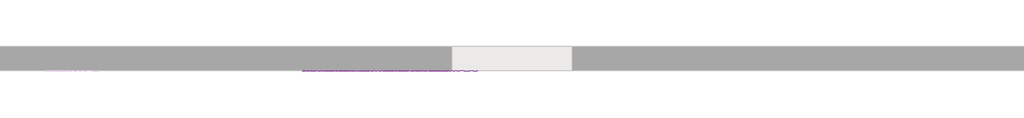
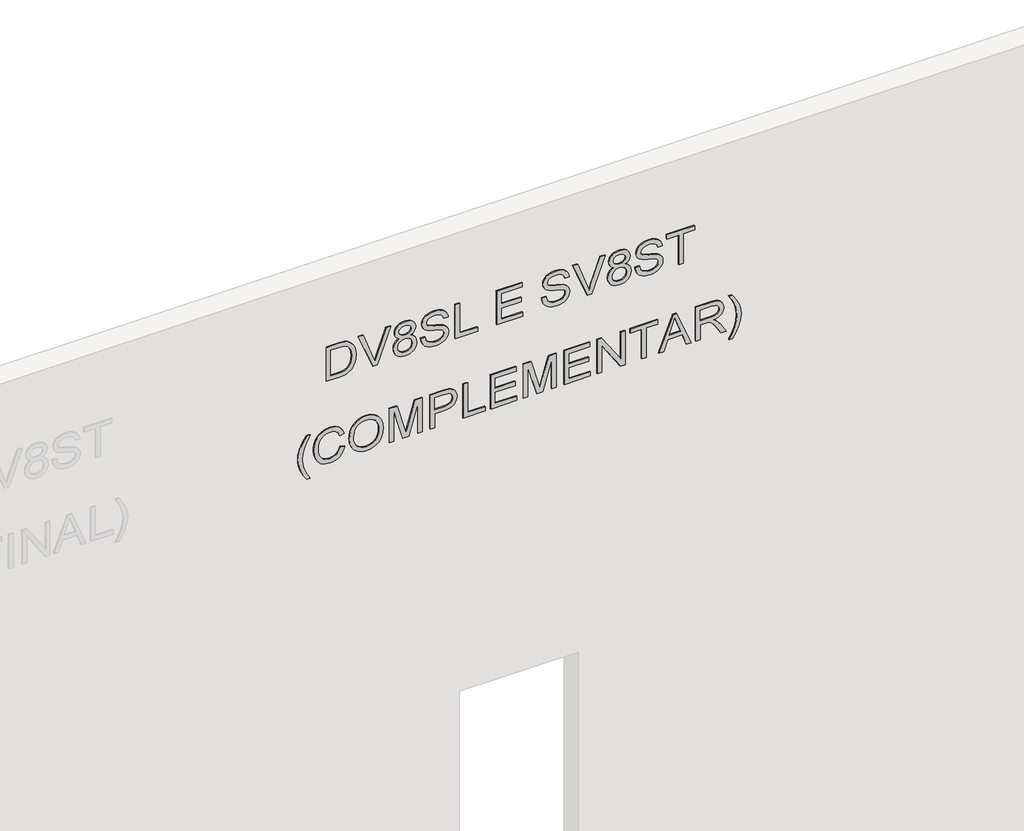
# One storey, part 4 of 4: 1 proxy.
"""IFC4 building model written with IfcOpenShell, lengths in millimetres."""

from ifc_helpers import new_model, si_unit, frame, origin, place, context, project, spatial, polyline, outline, extrude, element, save

model = new_model("IFC4")

# Units and contexts
model_context = context("Model", 3, world=origin())
ifc_project = project(units=[si_unit("LENGTHUNIT", "METRE", prefix="MILLI")], contexts=[model_context])

# Site, building, storey
site = spatial("IfcSite", under=ifc_project)
building = spatial("IfcBuilding", under=site)
storey = spatial("IfcBuildingStorey", under=building, Name="01 - Marelli - Planta Baixa - Painel Simples", Elevation=0.0)

# Proxy
placement = place(None, origin())
element("IfcBuildingElementProxy", 1, Name="300mm Arial", ObjectType="300mm Arial", at=placement, inside=storey, context=model_context, shape_type="SweptSolid", body=[
    extrude(outline(polyline([(6065.9244535, 22245.7423947), (6065.9244535, 22354.7090417), (6071.0748015, 22403.1591004), (6077.4299629, 22422.7028314), (6086.1947515, 22439.1747477), (6098.0129606, 22453.5221456), (6113.5283837, 22466.692321), (6133.1824793, 22478.133451), (6157.4167057, 22487.2937127), (6185.8815751, 22493.3085833), (6218.2275995, 22495.3135402), (6256.303386, 22492.3520901), (6289.8910122, 22483.46774), (6318.438655, 22468.6237015), (6341.3944915, 22447.7831864), (6354.5830611, 22427.5128885), (6362.9523764, 22403.4901942), (6367.293384, 22349.7058465), (6367.293384, 22245.7423947), (6065.9244535, 22245.7423947)]), holes=[polyline([(6103.5955698, 22283.413511), (6329.6222677, 22283.413511), (6329.6222677, 22349.0436589), (6328.1139515, 22380.7918751), (6323.589003, 22402.4601246), (6311.0074387, 22423.7512951), (6290.1853178, 22441.5659807), (6259.8718414, 22453.6233131), (6218.8162107, 22457.6424239), (6187.8313497, 22455.5914818), (6161.8312897, 22449.4386554), (6140.7240602, 22439.6070091), (6124.4176908, 22426.5196071), (6115.606917, 22414.3427131), (6109.0402234, 22398.5605755), (6104.9567332, 22377.6464841), (6103.5955698, 22350.0737285), (6103.5955698, 22283.413511)])]), frame((0.0, 8778.3159498, 0.0), z_axis=(0.0, 1.0, 0.0), x_axis=(0.0, 0.0, 1.0)), (0.0, 0.0, 1.0), 10.0),
    extrude(outline(polyline([(6065.9244535, 22636.138768), (6065.9244535, 22675.0606831), (6367.293384, 22789.9134419), (6367.293384, 22749.5935753), (6150.1694304, 22669.1009947), (6101.2411251, 22653.0613397), (6150.1694304, 22636.8009556), (6367.293384, 22556.5291042), (6367.293384, 22516.2092375), (6065.9244535, 22636.138768)])), frame((0.0, 8778.3159498, 0.0), z_axis=(0.0, 1.0, 0.0), x_axis=(0.0, 0.0, 1.0)), (0.0, 0.0, 1.0), 10.0),
    extrude(outline(polyline([(6231.9128098, 22865.697133), (6221.4281729, 22842.3734145), (6204.5423893, 22825.0829607), (6182.0280112, 22814.3775946), (6154.6575908, 22810.8091393), (6135.5070337, 22812.5105935), (6118.007347, 22817.6149562), (6102.1585308, 22826.1222273), (6087.960585, 22838.0324069), (6076.2596383, 22852.7200956), (6067.9018193, 22869.5598939), (6062.8871278, 22888.5518019), (6061.215564, 22909.6958196), (6062.88023, 22930.8398373), (6067.8742281, 22949.8317453), (6076.1975583, 22966.6715436), (6087.8502204, 22981.3592322), (6101.9492979, 22993.2694118), (6117.6118739, 23001.776683), (6134.8379483, 23006.8810457), (6153.6275212, 23008.5824999), (6179.9770691, 23005.1520003), (6202.3718855, 22994.8605015), (6219.965842, 22977.9839149), (6231.9128098, 22954.7981522), (6241.8180325, 22974.3234891), (6255.1997401, 22988.1650491), (6271.6348682, 22996.4148029), (6290.7003526, 22999.1647208), (6306.0962141, 22997.6196164), (6320.278065, 22992.9843033), (6333.2459053, 22985.2587814), (6344.9997351, 22974.4430507), (6354.7532065, 22961.0935328), (6361.7199718, 22945.7666492), (6367.293384, 22909.1807848), (6361.8487305, 22872.8156496), (6355.0429135, 22857.6543128), (6345.5147699, 22844.50713), (6333.9862678, 22833.8845374), (6321.1793759, 22826.2969713), (6307.094094, 22821.7444316), (6291.7304222, 22820.2269184), (6272.0303413, 22823.0136245), (6255.3101047, 22831.3737428), (6241.8456236, 22845.5280026), (6231.9128098, 22865.697133)]), holes=[polyline([(6290.6267762, 22857.8980347), (6305.525997, 22861.2917461), (6318.1443494, 22871.4728803), (6326.7527881, 22887.8160379), (6329.6222677, 22909.6958196), (6326.6884088, 22931.4376455), (6317.886832, 22947.8083943), (6304.781036, 22958.0723019), (6288.934519, 22961.4936045), (6273.6674162, 22958.1826665), (6260.9754874, 22948.2498527), (6252.422231, 22932.0998331), (6249.5711455, 22910.137278), (6252.4406251, 22887.650491), (6261.0490638, 22871.2521511), (6274.182451, 22861.2365638), (6290.6267762, 22857.8980347)]), polyline([(6155.981966, 22848.4802556), (6177.9629152, 22852.4625782), (6195.9339506, 22864.409546), (6207.9085096, 22883.4566363), (6211.9000292, 22908.7393264), (6207.8533273, 22934.6750071), (6195.7132214, 22954.3566938), (6177.3926981, 22966.7727111), (6154.8047436, 22970.9113836), (6132.5938681, 22966.9014698), (6114.6688179, 22954.8717286), (6102.8322147, 22935.6315002), (6098.8866803, 22909.9901252), (6100.7628785, 22893.2514944), (6106.391473, 22877.0278984), (6115.4505671, 22863.4806439), (6127.6182641, 22854.7710377), (6155.981966, 22848.4802556)])]), frame((0.0, 8778.3159498, 0.0), z_axis=(0.0, 1.0, 0.0), x_axis=(0.0, 0.0, 1.0)), (0.0, 0.0, 1.0), 10.0),
    extrude(outline(polyline([(6169.5200234, 23041.5447266), (6139.0961824, 23046.0144929), (6111.9832793, 23057.8051108), (6089.7264186, 23076.1716194), (6073.8707046, 23100.3690577), (6064.3793492, 23130.7469134), (6061.215564, 23167.6546746), (6064.1494229, 23197.7198307), (6072.9509996, 23224.6395956), (6087.0408801, 23247.0252151), (6105.83965, 23263.4879343), (6127.6826435, 23273.6138863), (6150.9051944, 23276.9892036), (6173.6219076, 23274.0553447), (6193.5059295, 23265.2537679), (6210.3733189, 23250.2717737), (6224.0401351, 23228.7966622), (6232.8509088, 23203.6703219), (6242.9492696, 23162.1364447), (6253.5810593, 23121.8901544), (6263.9921197, 23100.6265751), (6275.6355849, 23091.6318603), (6290.1117414, 23088.633622), (6307.0894955, 23092.864265), (6321.381711, 23105.5561938), (6331.0937957, 23127.5003548), (6334.3311572, 23159.4876943), (6331.0570075, 23190.7392698), (6321.2345582, 23213.272042), (6305.0109622, 23227.6930162), (6282.5333723, 23234.6091977), (6282.5333723, 23272.280314), (6307.4941657, 23268.031277), (6329.6958441, 23257.344305), (6347.9979733, 23240.4585214), (6361.2601193, 23217.6130495), (6369.316735, 23189.8011707), (6372.0022735, 23158.0161663), (6369.4362966, 23128.6775772), (6361.7383659, 23102.1716795), (6349.0832252, 23080.0895627), (6331.6456187, 23064.0223166), (6311.0718181, 23054.2274584), (6289.0080954, 23050.9625057), (6269.2712264, 23053.602059), (6251.5577083, 23061.520719), (6236.198635, 23074.8104561), (6223.5251003, 23093.5632408), (6214.4660061, 23116.6018507), (6204.9470595, 23152.608301), (6190.5628735, 23207.4595065), (6182.7545782, 23223.5359497), (6173.4563607, 23233.0640933), (6162.5578566, 23237.7545888), (6149.9487012, 23239.3180873), (6137.0084521, 23237.2303569), (6124.6752082, 23230.967166), (6113.9330539, 23220.4365439), (6105.7660736, 23205.5465201), (6100.6065286, 23187.1708144), (6098.8866803, 23166.1831466), (6101.1583516, 23142.3443933), (6107.9733656, 23121.0072376), (6118.4763965, 23103.5512369), (6131.8121189, 23091.3559488), (6148.615129, 23083.5384564), (6169.5200234, 23079.215843), (6169.5200234, 23041.5447266)])), frame((0.0, 8778.3159498, 0.0), z_axis=(0.0, 1.0, 0.0), x_axis=(0.0, 0.0, 1.0)), (0.0, 0.0, 1.0), 10.0),
    extrude(outline(polyline([(6065.9244535, 23333.495878), (6065.9244535, 23521.8514596), (6103.5955698, 23521.8514596), (6103.5955698, 23371.1669943), (6367.293384, 23371.1669943), (6367.293384, 23333.495878), (6065.9244535, 23333.495878)])), frame((0.0, 8778.3159498, 0.0), z_axis=(0.0, 1.0, 0.0), x_axis=(0.0, 0.0, 1.0)), (0.0, 0.0, 1.0), 10.0),
    extrude(outline(polyline([(6065.9244535, 23681.9537039), (6065.9244535, 23903.2715122), (6103.5955698, 23903.2715122), (6103.5955698, 23719.6248202), (6202.4822501, 23719.6248202), (6202.4822501, 23889.1448435), (6240.1533665, 23889.1448435), (6240.1533665, 23719.6248202), (6329.6222677, 23719.6248202), (6329.6222677, 23898.5626226), (6367.293384, 23898.5626226), (6367.293384, 23681.9537039), (6065.9244535, 23681.9537039)])), frame((0.0, 8778.3159498, 0.0), z_axis=(0.0, 1.0, 0.0), x_axis=(0.0, 0.0, 1.0)), (0.0, 0.0, 1.0), 10.0),
    extrude(outline(polyline([(6169.5200234, 24063.3737565), (6139.0961824, 24067.8435227), (6111.9832793, 24079.6341406), (6089.7264186, 24098.0006492), (6073.8707046, 24122.1980875), (6064.3793492, 24152.5759432), (6061.215564, 24189.4837044), (6064.1494229, 24219.5488605), (6072.9509996, 24246.4686255), (6087.0408801, 24268.8542449), (6105.83965, 24285.3169641), (6127.6826435, 24295.4429161), (6150.9051944, 24298.8182334), (6173.6219076, 24295.8843745), (6193.5059295, 24287.0827977), (6210.3733189, 24272.1008035), (6224.0401351, 24250.625692), (6232.8509088, 24225.4993517), (6242.9492696, 24183.9654745), (6253.5810593, 24143.7191842), (6263.9921197, 24122.4556049), (6275.6355849, 24113.4608901), (6290.1117414, 24110.4626518), (6307.0894955, 24114.6932948), (6321.381711, 24127.3852236), (6331.0937957, 24149.3293846), (6334.3311572, 24181.3167241), (6331.0570075, 24212.5682996), (6321.2345582, 24235.1010718), (6305.0109622, 24249.522046), (6282.5333723, 24256.4382275), (6282.5333723, 24294.1093438), (6307.4941657, 24289.8603068), (6329.6958441, 24279.1733348), (6347.9979733, 24262.2875512), (6361.2601193, 24239.4420793), (6369.316735, 24211.6302005), (6372.0022735, 24179.8451961), (6369.4362966, 24150.506607), (6361.7383659, 24124.0007093), (6349.0832252, 24101.9185925), (6331.6456187, 24085.8513464), (6311.0718181, 24076.0564882), (6289.0080954, 24072.7915355), (6269.2712264, 24075.4310888), (6251.5577083, 24083.3497488), (6236.198635, 24096.6394859), (6223.5251003, 24115.3922706), (6214.4660061, 24138.4308805), (6204.9470595, 24174.4373308), (6190.5628735, 24229.2885363), (6182.7545782, 24245.3649795), (6173.4563607, 24254.8931231), (6162.5578566, 24259.5836186), (6149.9487012, 24261.1471171), (6137.0084521, 24259.0593867), (6124.6752082, 24252.7961958), (6113.9330539, 24242.2655737), (6105.7660736, 24227.3755499), (6100.6065286, 24208.9998442), (6098.8866803, 24188.0121764), (6101.1583516, 24164.1734231), (6107.9733656, 24142.8362674), (6118.4763965, 24125.3802667), (6131.8121189, 24113.1849786), (6148.615129, 24105.3674862), (6169.5200234, 24101.0448728), (6169.5200234, 24063.3737565)])), frame((0.0, 8778.3159498, 0.0), z_axis=(0.0, 1.0, 0.0), x_axis=(0.0, 0.0, 1.0)), (0.0, 0.0, 1.0), 10.0),
    extrude(outline(polyline([(6065.9244535, 24444.3523507), (6065.9244535, 24483.2742657), (6367.293384, 24598.1270246), (6367.293384, 24557.807158), (6150.1694304, 24477.3145774), (6101.2411251, 24461.2749224), (6150.1694304, 24445.0145382), (6367.293384, 24364.7426869), (6367.293384, 24324.4228202), (6065.9244535, 24444.3523507)])), frame((0.0, 8778.3159498, 0.0), z_axis=(0.0, 1.0, 0.0), x_axis=(0.0, 0.0, 1.0)), (0.0, 0.0, 1.0), 10.0),
    extrude(outline(polyline([(6231.9128098, 24673.9107156), (6221.4281729, 24650.5869972), (6204.5423893, 24633.2965434), (6182.0280112, 24622.5911773), (6154.6575908, 24619.022722), (6135.5070337, 24620.7241762), (6118.007347, 24625.8285389), (6102.1585308, 24634.33581), (6087.960585, 24646.2459896), (6076.2596383, 24660.9336783), (6067.9018193, 24677.7734766), (6062.8871278, 24696.7653846), (6061.215564, 24717.9094023), (6062.88023, 24739.0534199), (6067.8742281, 24758.0453279), (6076.1975583, 24774.8851263), (6087.8502204, 24789.5728149), (6101.9492979, 24801.4829945), (6117.6118739, 24809.9902657), (6134.8379483, 24815.0946283), (6153.6275212, 24816.7960826), (6179.9770691, 24813.365583), (6202.3718855, 24803.0740842), (6219.965842, 24786.1974976), (6231.9128098, 24763.0117349), (6241.8180325, 24782.5370718), (6255.1997401, 24796.3786318), (6271.6348682, 24804.6283856), (6290.7003526, 24807.3783035), (6306.0962141, 24805.8331991), (6320.278065, 24801.197886), (6333.2459053, 24793.4723641), (6344.9997351, 24782.6566334), (6354.7532065, 24769.3071155), (6361.7199718, 24753.9802319), (6367.293384, 24717.3943675), (6361.8487305, 24681.0292323), (6355.0429135, 24665.8678955), (6345.5147699, 24652.7207127), (6333.9862678, 24642.0981201), (6321.1793759, 24634.510554), (6307.094094, 24629.9580143), (6291.7304222, 24628.440501), (6272.0303413, 24631.2272072), (6255.3101047, 24639.5873255), (6241.8456236, 24653.7415853), (6231.9128098, 24673.9107156)]), holes=[polyline([(6155.981966, 24656.6938383), (6177.9629152, 24660.6761609), (6195.9339506, 24672.6231287), (6207.9085096, 24691.670219), (6211.9000292, 24716.9529091), (6207.8533273, 24742.8885897), (6195.7132214, 24762.5702765), (6177.3926981, 24774.9862938), (6154.8047436, 24779.1249663), (6132.5938681, 24775.1150525), (6114.6688179, 24763.0853113), (6102.8322147, 24743.8450829), (6098.8866803, 24718.2037079), (6100.7628785, 24701.4650771), (6106.391473, 24685.2414811), (6115.4505671, 24671.6942266), (6127.6182641, 24662.9846204), (6155.981966, 24656.6938383)]), polyline([(6290.6267762, 24666.1116174), (6305.525997, 24669.5053288), (6318.1443494, 24679.686463), (6326.7527881, 24696.0296206), (6329.6222677, 24717.9094023), (6326.6884088, 24739.6512282), (6317.886832, 24756.021977), (6304.781036, 24766.2858846), (6288.934519, 24769.7071872), (6273.6674162, 24766.3962492), (6260.9754874, 24756.4634354), (6252.422231, 24740.3134158), (6249.5711455, 24718.3508607), (6252.4406251, 24695.8640737), (6261.0490638, 24679.4657338), (6274.182451, 24669.4501465), (6290.6267762, 24666.1116174)])]), frame((0.0, 8778.3159498, 0.0), z_axis=(0.0, 1.0, 0.0), x_axis=(0.0, 0.0, 1.0)), (0.0, 0.0, 1.0), 10.0),
    extrude(outline(polyline([(6169.5200234, 24849.7583093), (6139.0961824, 24854.2280756), (6111.9832793, 24866.0186935), (6089.7264186, 24884.3852021), (6073.8707046, 24908.5826404), (6064.3793492, 24938.9604961), (6061.215564, 24975.8682573), (6064.1494229, 25005.9334133), (6072.9509996, 25032.8531783), (6087.0408801, 25055.2387977), (6105.83965, 25071.701517), (6127.6826435, 25081.8274689), (6150.9051944, 25085.2027863), (6173.6219076, 25082.2689273), (6193.5059295, 25073.4673506), (6210.3733189, 25058.4853564), (6224.0401351, 25037.0102449), (6232.8509088, 25011.8839046), (6242.9492696, 24970.3500274), (6253.5810593, 24930.1037371), (6263.9921197, 24908.8401578), (6275.6355849, 24899.845443), (6290.1117414, 24896.8472047), (6307.0894955, 24901.0778477), (6321.381711, 24913.7697765), (6331.0937957, 24935.7139375), (6334.3311572, 24967.701277), (6331.0570075, 24998.9528525), (6321.2345582, 25021.4856247), (6305.0109622, 25035.9065989), (6282.5333723, 25042.8227804), (6282.5333723, 25080.4938967), (6307.4941657, 25076.2448597), (6329.6958441, 25065.5578877), (6347.9979733, 25048.6721041), (6361.2601193, 25025.8266322), (6369.316735, 24998.0147534), (6372.0022735, 24966.229749), (6369.4362966, 24936.8911599), (6361.7383659, 24910.3852621), (6349.0832252, 24888.3031454), (6331.6456187, 24872.2358992), (6311.0718181, 24862.4410411), (6289.0080954, 24859.1760884), (6269.2712264, 24861.8156417), (6251.5577083, 24869.7343017), (6236.198635, 24883.0240388), (6223.5251003, 24901.7768235), (6214.4660061, 24924.8154334), (6204.9470595, 24960.8218837), (6190.5628735, 25015.6730892), (6182.7545782, 25031.7495324), (6173.4563607, 25041.277676), (6162.5578566, 25045.9681715), (6149.9487012, 25047.5316699), (6137.0084521, 25045.4439396), (6124.6752082, 25039.1807487), (6113.9330539, 25028.6501265), (6105.7660736, 25013.7601028), (6100.6065286, 24995.3843971), (6098.8866803, 24974.3967293), (6101.1583516, 24950.557976), (6107.9733656, 24929.2208203), (6118.4763965, 24911.7648196), (6131.8121189, 24899.5695315), (6148.615129, 24891.7520391), (6169.5200234, 24887.4294256), (6169.5200234, 24849.7583093)])), frame((0.0, 8778.3159498, 0.0), z_axis=(0.0, 1.0, 0.0), x_axis=(0.0, 0.0, 1.0)), (0.0, 0.0, 1.0), 10.0),
    extrude(outline(polyline([(6065.9244535, 25217.0516933), (6065.9244535, 25254.7228096), (6329.6222677, 25254.7228096), (6329.6222677, 25353.6094899), (6367.293384, 25353.6094899), (6367.293384, 25118.165013), (6329.6222677, 25118.165013), (6329.6222677, 25217.0516933), (6065.9244535, 25217.0516933)])), frame((0.0, 8778.3159498, 0.0), z_axis=(0.0, 1.0, 0.0), x_axis=(0.0, 0.0, 1.0)), (0.0, 0.0, 1.0), 10.0),
    extrude(outline(polyline([(5249.3155348, 22080.9312608), (5249.3155348, 22109.1845981), (5297.5540614, 22080.3426497), (5345.8109821, 22059.7412579), (5394.0862969, 22047.3804229), (5442.3800058, 22043.2601445), (5480.2534572, 22045.6329834), (5517.9429677, 22052.7515), (5575.7740173, 22073.9415029), (5635.4444769, 22109.1845981), (5635.4444769, 22080.9312608), (5584.934279, 22046.2399887), (5534.2033518, 22021.9229888), (5489.4137189, 22009.6725184), (5442.600735, 22005.5890282), (5389.2210575, 22011.0520759), (5337.68079, 22027.4412187), (5290.2791949, 22051.7398245), (5249.3155348, 22080.9312608)])), frame((0.0, 8778.3159498, 0.0), z_axis=(0.0, 1.0, 0.0), x_axis=(0.0, 0.0, 1.0)), (0.0, 0.0, 1.0), 10.0),
    extrude(outline(polyline([(5441.2027835, 22363.4646331), (5408.9395325, 22351.278542), (5385.7261786, 22331.4956878), (5371.7098746, 22305.2932927), (5367.0377732, 22273.8485791), (5370.4682728, 22246.8736318), (5380.7597717, 22221.8668532), (5397.9858461, 22201.0079441), (5422.2200725, 22186.4766053), (5452.3128197, 22177.95094), (5487.1144565, 22175.1090516), (5515.5333406, 22177.5094816), (5543.1060961, 22184.7107717), (5567.4966724, 22197.8349619), (5586.3690188, 22218.0040922), (5598.4539423, 22244.5835664), (5602.4822501, 22276.9387879), (5598.8494154, 22305.0081841), (5587.9509113, 22327.853656), (5569.1061561, 22345.6959328), (5541.6345681, 22358.7557436), (5550.6108888, 22396.4268599), (5588.4291579, 22379.7893967), (5603.751443, 22367.9872824), (5616.6824952, 22353.8629131), (5626.9510013, 22337.6830031), (5634.2856486, 22319.7142669), (5640.1533665, 22278.4103159), (5635.6192209, 22240.5552586), (5622.0167841, 22206.0111392), (5599.6771499, 22176.8840822), (5568.9314122, 22155.2802121), (5530.9843844, 22141.8985045), (5487.0408801, 22137.4379353), (5445.3782441, 22141.3834697), (5406.4747231, 22153.2200729), (5373.3837376, 22172.607454), (5349.1587083, 22199.2053223), (5334.3146698, 22233.9057915), (5329.3666569, 22277.6009755), (5331.0014325, 22300.0233831), (5335.9057594, 22320.6431689), (5344.0796375, 22339.460333), (5355.5230668, 22356.4748752), (5370.0796975, 22371.3511034), (5387.5931797, 22383.7533252), (5408.0635135, 22393.6815405), (5431.4906988, 22401.1357494), (5441.2027835, 22363.4646331)])), frame((0.0, 8778.3159498, 0.0), z_axis=(0.0, 1.0, 0.0), x_axis=(0.0, 0.0, 1.0)), (0.0, 0.0, 1.0), 10.0),
    extrude(outline(polyline([(5480.7868861, 22438.8068658), (5442.2420501, 22443.1110851), (5405.7757473, 22456.0237431), (5374.0827134, 22477.2873224), (5349.8576841, 22506.6443057), (5334.4894137, 22542.292071), (5329.3666569, 22582.4279967), (5334.0019701, 22620.2370687), (5347.9079095, 22655.3789963), (5370.8269578, 22685.3429848), (5402.5015976, 22707.6182396), (5440.9636602, 22721.4414056), (5484.2449769, 22726.0491276), (5526.9560765, 22721.6713318), (5564.8847102, 22708.5379446), (5596.5041677, 22687.0536361), (5620.2877387, 22657.6230765), (5635.1869595, 22622.1776462), (5640.1533665, 22582.6487259), (5637.5092146, 22552.3582421), (5629.5767591, 22524.9832231), (5616.3559999, 22500.523669), (5597.846937, 22478.9795796), (5574.6657728, 22461.4040173), (5547.4287096, 22448.8500442), (5516.1357474, 22441.3176604), (5480.7868861, 22438.8068658)]), holes=[polyline([(5480.4190041, 22476.4779821), (5510.955509, 22478.4415522), (5536.7877229, 22484.3322627), (5557.9156457, 22494.1501134), (5574.3392775, 22507.8951044), (5586.651828, 22524.3624223), (5595.446507, 22542.3472533), (5600.7233144, 22561.8495976), (5602.4822501, 22582.8694551), (5598.8310213, 22612.0333002), (5587.8773349, 22638.1621189), (5570.2833785, 22659.8211714), (5546.7113397, 22675.5757178), (5517.8877854, 22685.1774379), (5484.5392825, 22688.3780113), (5458.0011951, 22686.5087109), (5434.672878, 22680.9008097), (5414.5543314, 22671.5543078), (5397.6455552, 22658.4692051), (5384.2546506, 22642.4870316), (5374.6897187, 22624.4493176), (5368.9507596, 22604.3560628), (5367.0377732, 22582.2072675), (5368.9323655, 22560.4309526), (5374.6161423, 22540.5722227), (5384.0891037, 22522.6310776), (5397.3512496, 22506.6075175), (5413.9105379, 22493.4258457), (5433.2749265, 22484.0103659), (5455.4444152, 22478.361078), (5480.4190041, 22476.4779821)])]), frame((0.0, 8778.3159498, 0.0), z_axis=(0.0, 1.0, 0.0), x_axis=(0.0, 0.0, 1.0)), (0.0, 0.0, 1.0), 10.0),
    extrude(outline(polyline([(5334.0755465, 22777.8469125), (5334.0755465, 22815.5180288), (5597.7733606, 22815.5180288), (5334.0755465, 22891.2281434), (5334.0755465, 22942.2901644), (5597.7733606, 23018.000279), (5334.0755465, 23018.000279), (5334.0755465, 23055.6713953), (5635.4444769, 23055.6713953), (5635.4444769, 22990.8505877), (5426.7082328, 22930.2236349), (5378.6628443, 22916.7591539), (5423.0294129, 22904.3247424), (5635.4444769, 22842.6677201), (5635.4444769, 22777.8469125), (5334.0755465, 22777.8469125)])), frame((0.0, 8778.3159498, 0.0), z_axis=(0.0, 1.0, 0.0), x_axis=(0.0, 0.0, 1.0)), (0.0, 0.0, 1.0), 10.0),
    extrude(outline(polyline([(5334.0755465, 23121.5958488), (5334.0755465, 23159.2669651), (5456.5066745, 23159.2669651), (5456.5066745, 23235.8599965), (5458.1713405, 23265.0583306), (5463.1653386, 23289.3776298), (5471.4886687, 23308.8178939), (5483.1413309, 23323.3791232), (5497.1990217, 23333.9856209), (5512.7374374, 23341.5616908), (5529.7565782, 23346.1073327), (5548.2564441, 23347.6225466), (5569.7131614, 23345.3784665), (5589.3488629, 23338.646226), (5605.9955232, 23328.2259684), (5618.4851169, 23314.9178373), (5627.2131173, 23298.3907386), (5632.5749974, 23278.3135787), (5635.4444769, 23233.2848225), (5635.4444769, 23121.5958488), (5334.0755465, 23121.5958488)]), holes=[polyline([(5494.1777908, 23159.2669651), (5597.7733606, 23159.2669651), (5597.7733606, 23237.1843717), (5595.1981866, 23274.855488), (5588.8706163, 23289.0833242), (5578.1284621, 23300.2761339), (5563.8546407, 23307.5326062), (5546.9320689, 23309.9514303), (5524.6568141, 23305.8495461), (5508.0101538, 23293.5438933), (5497.6358815, 23271.4709736), (5494.1777908, 23238.0672885), (5494.1777908, 23159.2669651)])]), frame((0.0, 8778.3159498, 0.0), z_axis=(0.0, 1.0, 0.0), x_axis=(0.0, 0.0, 1.0)), (0.0, 0.0, 1.0), 10.0),
    extrude(outline(polyline([(5334.0755465, 23399.4203316), (5334.0755465, 23587.7759131), (5371.7466628, 23587.7759131), (5371.7466628, 23437.0914479), (5635.4444769, 23437.0914479), (5635.4444769, 23399.4203316), (5334.0755465, 23399.4203316)])), frame((0.0, 8778.3159498, 0.0), z_axis=(0.0, 1.0, 0.0), x_axis=(0.0, 0.0, 1.0)), (0.0, 0.0, 1.0), 10.0),
    extrude(outline(polyline([(5334.0755465, 23630.1559189), (5334.0755465, 23851.4737272), (5371.7466628, 23851.4737272), (5371.7466628, 23667.8270352), (5470.6333431, 23667.8270352), (5470.6333431, 23837.3470586), (5508.3044594, 23837.3470586), (5508.3044594, 23667.8270352), (5597.7733606, 23667.8270352), (5597.7733606, 23846.7648377), (5635.4444769, 23846.7648377), (5635.4444769, 23630.1559189), (5334.0755465, 23630.1559189)])), frame((0.0, 8778.3159498, 0.0), z_axis=(0.0, 1.0, 0.0), x_axis=(0.0, 0.0, 1.0)), (0.0, 0.0, 1.0), 10.0),
    extrude(outline(polyline([(5334.0755465, 23907.9804017), (5334.0755465, 23945.651518), (5597.7733606, 23945.651518), (5334.0755465, 24021.3616326), (5334.0755465, 24072.4236535), (5597.7733606, 24148.1337681), (5334.0755465, 24148.1337681), (5334.0755465, 24185.8048844), (5635.4444769, 24185.8048844), (5635.4444769, 24120.9840769), (5426.7082328, 24060.3571241), (5378.6628443, 24046.8926431), (5423.0294129, 24034.4582316), (5635.4444769, 23972.8012092), (5635.4444769, 23907.9804017), (5334.0755465, 23907.9804017)])), frame((0.0, 8778.3159498, 0.0), z_axis=(0.0, 1.0, 0.0), x_axis=(0.0, 0.0, 1.0)), (0.0, 0.0, 1.0), 10.0),
    extrude(outline(polyline([(5334.0755465, 24251.729338), (5334.0755465, 24473.0471463), (5371.7466628, 24473.0471463), (5371.7466628, 24289.4004543), (5470.6333431, 24289.4004543), (5470.6333431, 24458.9204777), (5508.3044594, 24458.9204777), (5508.3044594, 24289.4004543), (5597.7733606, 24289.4004543), (5597.7733606, 24468.3382567), (5635.4444769, 24468.3382567), (5635.4444769, 24251.729338), (5334.0755465, 24251.729338)])), frame((0.0, 8778.3159498, 0.0), z_axis=(0.0, 1.0, 0.0), x_axis=(0.0, 0.0, 1.0)), (0.0, 0.0, 1.0), 10.0),
    extrude(outline(polyline([(5334.0755465, 24529.5538207), (5334.0755465, 24567.224937), (5572.9045377, 24567.224937), (5334.0755465, 24724.678431), (5334.0755465, 24764.9982977), (5635.4444769, 24764.9982977), (5635.4444769, 24727.3271813), (5396.689062, 24727.3271813), (5635.4444769, 24569.8736874), (5635.4444769, 24529.5538207), (5334.0755465, 24529.5538207)])), frame((0.0, 8778.3159498, 0.0), z_axis=(0.0, 1.0, 0.0), x_axis=(0.0, 0.0, 1.0)), (0.0, 0.0, 1.0), 10.0),
    extrude(outline(polyline([(5334.0755465, 24906.2649838), (5334.0755465, 24943.9361001), (5597.7733606, 24943.9361001), (5597.7733606, 25042.8227804), (5635.4444769, 25042.8227804), (5635.4444769, 24807.3783035), (5597.7733606, 24807.3783035), (5597.7733606, 24906.2649838), (5334.0755465, 24906.2649838)])), frame((0.0, 8778.3159498, 0.0), z_axis=(0.0, 1.0, 0.0), x_axis=(0.0, 0.0, 1.0)), (0.0, 0.0, 1.0), 10.0),
    extrude(outline(polyline([(5334.0755465, 25050.1068439), (5334.0755465, 25089.9116758), (5428.2533372, 25124.3454305), (5428.2533372, 25248.4688157), (5334.0755465, 25282.9761469), (5334.0755465, 25322.7809787), (5635.4444769, 25202.4835663), (5635.4444769, 25170.4042563), (5334.0755465, 25050.1068439)]), holes=[polyline([(5465.9244535, 25138.1777936), (5546.4906105, 25167.6819296), (5597.7733606, 25186.4439113), (5540.0158874, 25207.5603379), (5465.9244535, 25234.7100291), (5465.9244535, 25138.1777936)])]), frame((0.0, 8778.3159498, 0.0), z_axis=(0.0, 1.0, 0.0), x_axis=(0.0, 0.0, 1.0)), (0.0, 0.0, 1.0), 10.0),
    extrude(outline(polyline([(5334.0755465, 25363.027269), (5334.0755465, 25400.6983853), (5465.9244535, 25400.6983853), (5465.9244535, 25446.1685999), (5464.6000784, 25468.0207904), (5457.4263794, 25485.9366436), (5437.8918455, 25505.8390595), (5396.5419092, 25534.1659732), (5334.0755465, 25573.3821939), (5334.0755465, 25617.1601513), (5415.7453494, 25566.9074707), (5454.5201117, 25536.3732651), (5470.6333431, 25514.962533), (5480.6213392, 25552.0726293), (5488.6365682, 25566.454516), (5498.6659511, 25578.0542952), (5523.2772566, 25593.3673832), (5552.9653336, 25598.4717459), (5576.831678, 25595.3907342), (5598.5459128, 25586.1476991), (5616.0570958, 25571.745119), (5627.3142848, 25553.1854723), (5633.4119289, 25527.7924176), (5635.4444769, 25492.8896133), (5635.4444769, 25363.027269), (5334.0755465, 25363.027269)]), holes=[polyline([(5503.5955698, 25400.6983853), (5597.7733606, 25400.6983853), (5597.7733606, 25494.5082941), (5594.5176049, 25524.3159327), (5584.750338, 25544.8713392), (5569.9430877, 25556.818307), (5551.567382, 25560.8006296), (5538.2592508, 25558.7128993), (5525.9995833, 25552.4497083), (5515.8644344, 25542.1674066), (5508.9298588, 25528.0223438), (5504.9291421, 25509.2327709), (5503.5955698, 25485.0169386), (5503.5955698, 25400.6983853)])]), frame((0.0, 8778.3159498, 0.0), z_axis=(0.0, 1.0, 0.0), x_axis=(0.0, 0.0, 1.0)), (0.0, 0.0, 1.0), 10.0),
    extrude(outline(polyline([(5249.3155348, 25669.105089), (5290.2791949, 25698.1585696), (5337.68079, 25722.4847665), (5389.2210575, 25738.9566828), (5442.600735, 25744.4473216), (5489.4137189, 25740.3638315), (5534.2033518, 25728.113361), (5584.934279, 25703.7963611), (5635.4444769, 25669.105089), (5635.4444769, 25640.8517518), (5575.1854061, 25676.3155761), (5546.8400984, 25688.290135), (5517.2807801, 25697.2848498), (5479.9775458, 25704.4033664), (5442.3800058, 25706.7762053), (5394.0862969, 25702.655927), (5345.8109821, 25690.2950919), (5297.5540614, 25669.6937002), (5249.3155348, 25640.8517518), (5249.3155348, 25669.105089)])), frame((0.0, 8778.3159498, 0.0), z_axis=(0.0, 1.0, 0.0), x_axis=(0.0, 0.0, 1.0)), (0.0, 0.0, 1.0), 10.0),
])

save(model, "model.ifc")
